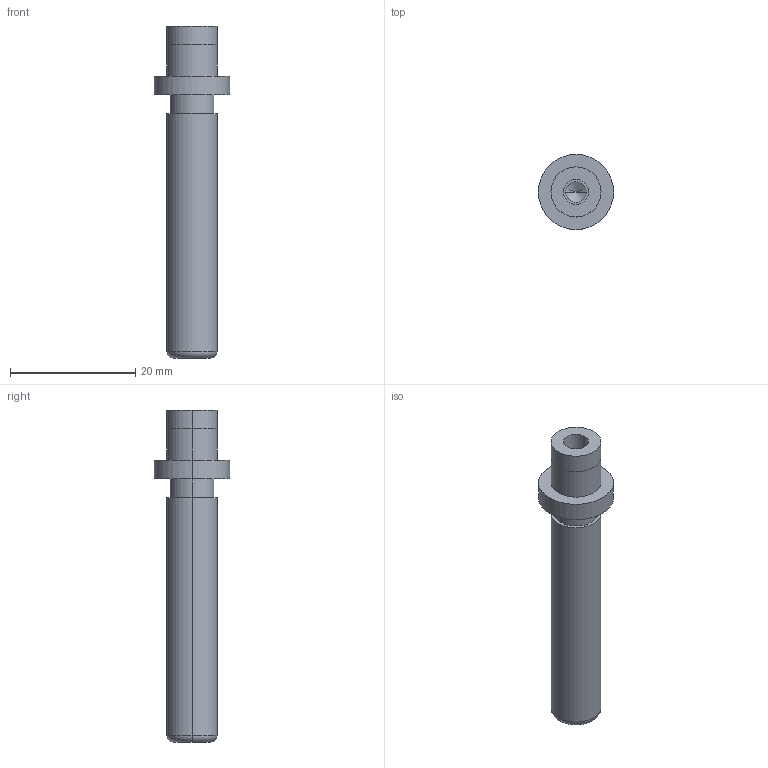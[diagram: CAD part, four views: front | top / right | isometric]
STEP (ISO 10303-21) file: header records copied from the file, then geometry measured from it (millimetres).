
FILE_DESCRIPTION(/* description */ (''),/* implementation_level */ '2;1');
FILE_NAME(/* name */ '3d_sgpw8-45_05237_r00.stp',/* time_stamp */ '2011-01-10T14:11:02+09:00',/* author */ ('MISUMI'),/* organization */ (''),/* preprocessor_version */ 'ST-DEVELOPER v11',/* originating_system */ 'UGS - NX 5.0',/* authorisation */ '');
FILE_SCHEMA (('CONFIG_CONTROL_DESIGN'));
Length unit declared in the file: millimetre
Products named in the file (1): 3d_sgpw8-45_05237_r00
Bounding box: 12 x 12 x 53 mm (x, y, z)
Volume: 2521.2 mm3; surface area: 1894.3 mm2
Topology: 1 solids, 1 shells, 31 faces, 64 edges, 38 vertices
Faces by surface type: cylinder 18, plane 7, cone 4, torus 2
Entity records: 890 total; most frequent: DIRECTION 162, CARTESIAN_POINT 130, ORIENTED_EDGE 120, AXIS2_PLACEMENT_3D 70, EDGE_CURVE 60, EDGE_LOOP 38, CIRCLE 38, VERTEX_POINT 38
